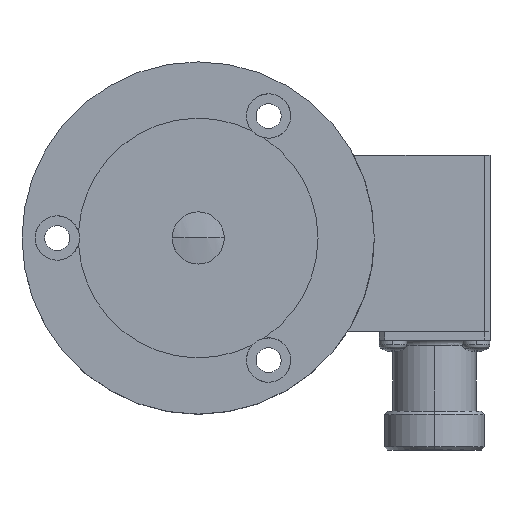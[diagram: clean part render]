
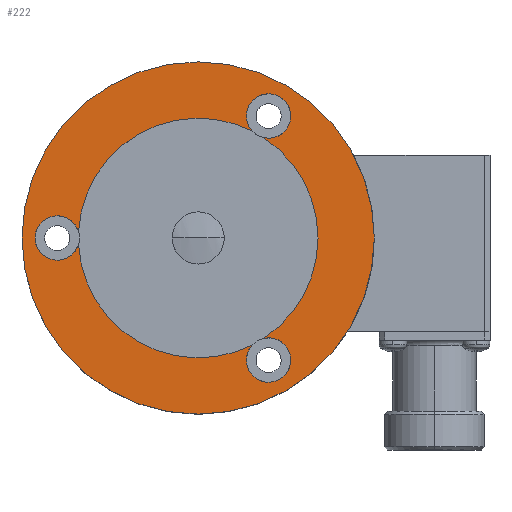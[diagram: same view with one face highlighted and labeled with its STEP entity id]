
A CAD part, top view. The second image highlights one B-rep face of the part: STEP entity #222.
In plain terms, the highlighted planar face has unit normal (0, 0, 1).
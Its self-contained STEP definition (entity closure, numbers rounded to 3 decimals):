
#222=ADVANCED_FACE('',(#543,#544),#545,.T.);
#543=FACE_OUTER_BOUND('',#886,.T.);
#544=FACE_BOUND('',#887,.T.);
#545=PLANE('',#888);
#886=EDGE_LOOP('',(#2086,#2087));
#887=EDGE_LOOP('',(#2088,#2089,#2090,#2091,#2092,#2093,#2094,#2095,#2096,#2097));
#888=AXIS2_PLACEMENT_3D('',#2098,#2099,#2100);
#2086=ORIENTED_EDGE('',*,*,#2219,.T.);
#2087=ORIENTED_EDGE('',*,*,#2595,.T.);
#2088=ORIENTED_EDGE('',*,*,#2259,.T.);
#2089=ORIENTED_EDGE('',*,*,#2588,.T.);
#2090=ORIENTED_EDGE('',*,*,#2253,.T.);
#2091=ORIENTED_EDGE('',*,*,#2594,.T.);
#2092=ORIENTED_EDGE('',*,*,#2583,.T.);
#2093=ORIENTED_EDGE('',*,*,#2229,.T.);
#2094=ORIENTED_EDGE('',*,*,#2596,.T.);
#2095=ORIENTED_EDGE('',*,*,#2584,.T.);
#2096=ORIENTED_EDGE('',*,*,#2235,.T.);
#2097=ORIENTED_EDGE('',*,*,#2597,.T.);
#2098=CARTESIAN_POINT('',(0.0,0.0,20.3));
#2099=DIRECTION('',(0.0,0.0,1.0));
#2100=DIRECTION('',(1.0,0.0,0.0));
#2219=EDGE_CURVE('',#2628,#2626,#2629,.T.);
#2229=EDGE_CURVE('',#2648,#2645,#2649,.T.);
#2235=EDGE_CURVE('',#2660,#2657,#2661,.T.);
#2253=EDGE_CURVE('',#2696,#2693,#2697,.T.);
#2259=EDGE_CURVE('',#2708,#2705,#2709,.T.);
#2583=EDGE_CURVE('',#3231,#2648,#3234,.T.);
#2584=EDGE_CURVE('',#3235,#2660,#3236,.T.);
#2588=EDGE_CURVE('',#2705,#2696,#3241,.T.);
#2594=EDGE_CURVE('',#2693,#3231,#3247,.T.);
#2595=EDGE_CURVE('',#2626,#2628,#3248,.T.);
#2596=EDGE_CURVE('',#2645,#3235,#3249,.T.);
#2597=EDGE_CURVE('',#2657,#2708,#3250,.T.);
#2626=VERTEX_POINT('',#3282);
#2628=VERTEX_POINT('',#3285);
#2629=CIRCLE('',#3286,31.75);
#2645=VERTEX_POINT('',#3306);
#2648=VERTEX_POINT('',#3310);
#2649=CIRCLE('',#3311,4.0);
#2657=VERTEX_POINT('',#3321);
#2660=VERTEX_POINT('',#3325);
#2661=CIRCLE('',#3326,4.0);
#2693=VERTEX_POINT('',#3366);
#2696=VERTEX_POINT('',#3370);
#2697=CIRCLE('',#3371,4.0);
#2705=VERTEX_POINT('',#3381);
#2708=VERTEX_POINT('',#3385);
#2709=CIRCLE('',#3386,21.6);
#3231=VERTEX_POINT('',#4568);
#3234=CIRCLE('',#4572,21.6);
#3235=VERTEX_POINT('',#4573);
#3236=CIRCLE('',#4574,21.6);
#3241=CIRCLE('',#4580,21.6);
#3247=CIRCLE('',#4586,4.0);
#3248=CIRCLE('',#4587,31.75);
#3249=CIRCLE('',#4588,4.0);
#3250=CIRCLE('',#4589,4.0);
#3282=CARTESIAN_POINT('',(-31.75,0.,20.3));
#3285=CARTESIAN_POINT('',(31.75,0.0,20.3));
#3286=AXIS2_PLACEMENT_3D('',#4621,#4622,#4623);
#3306=CARTESIAN_POINT('',(-29.4,0.,20.3));
#3310=CARTESIAN_POINT('',(-21.569,-1.151,20.3));
#3311=AXIS2_PLACEMENT_3D('',#4641,#4642,#4643);
#3321=CARTESIAN_POINT('',(14.7,25.461,20.3));
#3325=CARTESIAN_POINT('',(9.788,19.255,20.3));
#3326=AXIS2_PLACEMENT_3D('',#4653,#4654,#4655);
#3366=CARTESIAN_POINT('',(14.7,-25.461,20.3));
#3370=CARTESIAN_POINT('',(11.782,-18.104,20.3));
#3371=AXIS2_PLACEMENT_3D('',#4689,#4690,#4691);
#3381=CARTESIAN_POINT('',(21.6,0.,20.3));
#3385=CARTESIAN_POINT('',(11.782,18.104,20.3));
#3386=AXIS2_PLACEMENT_3D('',#4701,#4702,#4703);
#4568=CARTESIAN_POINT('',(9.788,-19.255,20.3));
#4572=AXIS2_PLACEMENT_3D('',#5203,#5204,#5205);
#4573=CARTESIAN_POINT('',(-21.569,1.151,20.3));
#4574=AXIS2_PLACEMENT_3D('',#5206,#5207,#5208);
#4580=AXIS2_PLACEMENT_3D('',#5216,#5217,#5218);
#4586=AXIS2_PLACEMENT_3D('',#5234,#5235,#5236);
#4587=AXIS2_PLACEMENT_3D('',#5237,#5238,#5239);
#4588=AXIS2_PLACEMENT_3D('',#5240,#5241,#5242);
#4589=AXIS2_PLACEMENT_3D('',#5243,#5244,#5245);
#4621=CARTESIAN_POINT('',(0.0,0.0,20.3));
#4622=DIRECTION('',(0.0,0.0,1.0));
#4623=DIRECTION('',(1.0,0.0,0.0));
#4641=CARTESIAN_POINT('',(-25.4,0.,20.3));
#4642=DIRECTION('',(0.0,0.0,-1.0));
#4643=DIRECTION('',(-1.0,0.,0.0));
#4653=CARTESIAN_POINT('',(12.7,21.997,20.3));
#4654=DIRECTION('',(0.0,0.0,-1.0));
#4655=DIRECTION('',(0.5,0.866,0.0));
#4689=CARTESIAN_POINT('',(12.7,-21.997,20.3));
#4690=DIRECTION('',(0.0,0.0,-1.0));
#4691=DIRECTION('',(0.5,-0.866,0.0));
#4701=CARTESIAN_POINT('',(0.0,0.0,20.3));
#4702=DIRECTION('',(0.0,0.0,-1.0));
#4703=DIRECTION('',(1.0,0.0,0.0));
#5203=CARTESIAN_POINT('',(0.0,0.0,20.3));
#5204=DIRECTION('',(0.0,0.0,-1.0));
#5205=DIRECTION('',(1.0,0.0,0.0));
#5206=CARTESIAN_POINT('',(0.0,0.0,20.3));
#5207=DIRECTION('',(0.0,0.0,-1.0));
#5208=DIRECTION('',(1.0,0.0,0.0));
#5216=CARTESIAN_POINT('',(0.0,0.0,20.3));
#5217=DIRECTION('',(0.0,0.0,-1.0));
#5218=DIRECTION('',(1.0,0.0,0.0));
#5234=CARTESIAN_POINT('',(12.7,-21.997,20.3));
#5235=DIRECTION('',(0.0,0.0,-1.0));
#5236=DIRECTION('',(0.5,-0.866,0.0));
#5237=CARTESIAN_POINT('',(0.0,0.0,20.3));
#5238=DIRECTION('',(0.0,0.0,1.0));
#5239=DIRECTION('',(1.0,0.0,0.0));
#5240=CARTESIAN_POINT('',(-25.4,0.,20.3));
#5241=DIRECTION('',(0.0,0.0,-1.0));
#5242=DIRECTION('',(-1.0,0.,0.0));
#5243=CARTESIAN_POINT('',(12.7,21.997,20.3));
#5244=DIRECTION('',(0.0,0.0,-1.0));
#5245=DIRECTION('',(0.5,0.866,0.0));
